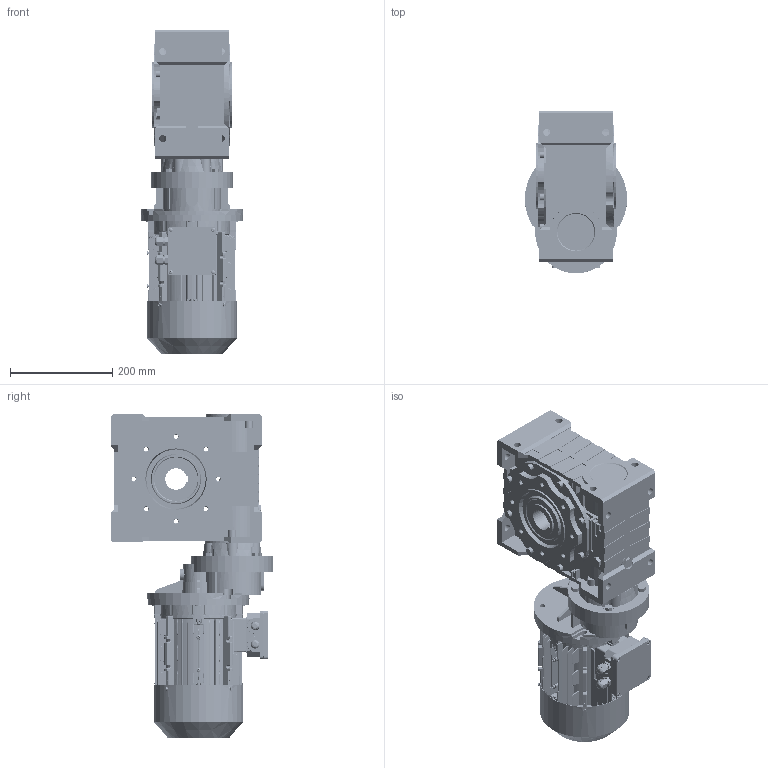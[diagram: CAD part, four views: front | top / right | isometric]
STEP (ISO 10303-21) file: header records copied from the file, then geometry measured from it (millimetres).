
FILE_DESCRIPTION (( 'STEP AP214' ), '1' );
FILE_NAME ('CMRV110_PC090_MX3-90S.STEP', '2018-07-04T13:26:49', ( '' ), ( '' ), 'SwSTEP 2.0', 'SolidWorks 2012', '' );
FILE_SCHEMA (( 'AUTOMOTIVE_DESIGN' ));
Length unit declared in the file: millimetre
Products named in the file (41): CMRV110_B10; PC090_MX3-90S; MX3-90S_B5; cross recessed pan head screws gb_GB_CROSS_SCREWS_TYPE1 M4X6-6  H type-N; hexagon socket head cap screws gb_GB_FASTENER_SCREWS_HSHCS M6X30-N_2; hexagon socket head cap screws gb_GB_FASTENER_SCREWS_HSHCS M6X25-N_1; hexagon socket head cap screws gb_GB_FASTENER_SCREWS_HSHCS M6X40-N; IE3 90S flange_2; IE3 90S  oil seal_2; circlips for shaft--type b gb_GB_CONNECTING_PIECE_RINGS_CSB 20_2; IE3 90L cable glandsM16_2; cross recessed pan head screws gb_GB_CROSS_SCREWS_TYPE1 M5X10-10  H type-N_2; cross recessed pan head screws gb_GB_CROSS_SCREWS_TYPE1 M5X20-20  H type-N_2; hexagon head bolts-full thread gb_GB_FASTENER_BOLT_STBAB A M4X16-N_2; IE3 90S connection board_2; hexagon flange head tapping screws gb_GB_SQUARE_AND_HEXAGON_TYPE137 ST3.5X9.5 F-N_2; cross recessed pan head tapping screws gb_GB_CROSS_SCREWS_TYPE128 ST4.2X9.5 H C-N_2; hex nuts, style 1-grades ab gb_GB_FASTENER_NUT_SNAB1 M6-N_2; spring lock washers--normal type gb_GB_FASTENER_WASHER_SW 6_2; IE3 90S terminal box cover_2; IE3 90S terminal box_2; plain parallel keys_GB_CONNECTING_PIECE_KEYS_CSK 8X40_2; IE3 90S fan cover_2; IE3 90S fan_2; deep groove ball bearings gb_Rolling bearings 6205 GB 276-94_2; IE3 90S rotor_2; IE3 90S flangeB5; IE3 90S casing_2; PC090-A09_Ø28.LK130; ãi-¿ã¢+³Að- 8í-7í-35; -+-¨¢ÃÈ¦Í¨-À-¦ÂñM8í-22; Ë-ÀÔ-35í-55í-10_B1; Ë-ÀÔ-30í-47í-7_B1; PC90ﾂ-ｩﾃ; -ﾟﾎﾚ+ｦ; -ﾟ; -õ+ÙÍßÎÚ+¦; +_ÀÔ©Ã-32í-7; 戌俓; PC90火耳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
Assembly tree (80 placements, depth 5):
  CMRV110_PC090_MX3-90S
    PC090_MX3-90S
      PC090-A09_Ø28.LK130
        PC90火耳
        -õ+ÙÍßÎÚ+¦
          戌俓
          +_ÀÔ©Ã-32í-7
        -ﾟﾎﾚ+ｦ
          -ﾟ
        PC90ﾂ-ｩﾃ
        Ë-ÀÔ-30í-47í-7_B1
        Ë-ÀÔ-35í-55í-10_B1
        -+-¨¢ÃÈ¦Í¨-À-¦ÂñM8í-22  x5
        ãi-¿ã¢+³Að- 8í-7í-35
      MX3-90S_B5
        IE3 90S casing_2
        IE3 90S flangeB5
        IE3 90S rotor_2
        deep groove ball bearings gb_Rolling bearings 6205 GB 276-94_2  x2
        IE3 90S fan_2
        IE3 90S fan cover_2
        plain parallel keys_GB_CONNECTING_PIECE_KEYS_CSK 8X40_2
        IE3 90S terminal box_2
        IE3 90S terminal box cover_2
        spring lock washers--normal type gb_GB_FASTENER_WASHER_SW 6_2  x8
        hex nuts, style 1-grades ab gb_GB_FASTENER_NUT_SNAB1 M6-N_2  x7
        cross recessed pan head tapping screws gb_GB_CROSS_SCREWS_TYPE128 ST4.2X9.5 H C-N_2  x4
        hexagon flange head tapping screws gb_GB_SQUARE_AND_HEXAGON_TYPE137 ST3.5X9.5 F-N_2  x4
        IE3 90S connection board_2
        hexagon head bolts-full thread gb_GB_FASTENER_BOLT_STBAB A M4X16-N_2  x6
        cross recessed pan head screws gb_GB_CROSS_SCREWS_TYPE1 M5X20-20  H type-N_2  x2
        cross recessed pan head screws gb_GB_CROSS_SCREWS_TYPE1 M5X10-10  H type-N_2  x4
        IE3 90L cable glandsM16_2  x2
        circlips for shaft--type b gb_GB_CONNECTING_PIECE_RINGS_CSB 20_2
        IE3 90S  oil seal_2
        IE3 90S flange_2
        hexagon socket head cap screws gb_GB_FASTENER_SCREWS_HSHCS M6X40-N  x3
        hexagon socket head cap screws gb_GB_FASTENER_SCREWS_HSHCS M6X25-N_1
        hexagon socket head cap screws gb_GB_FASTENER_SCREWS_HSHCS M6X30-N_2  x4
        cross recessed pan head screws gb_GB_CROSS_SCREWS_TYPE1 M4X6-6  H type-N  x2
    CMRV110_B10
Bounding box: 200 x 317.5 x 634 mm (x, y, z)
Volume: 2913537.4 mm3; surface area: 1631481.1 mm2
Topology: 74 solids, 94 shells, 7061 faces, 18254 edges, 11439 vertices
Faces by surface type: plane 2726, cylinder 2060, bspline 1351, cone 799, sphere 81, torus 44
Entity records: 236278 total; most frequent: CARTESIAN_POINT 92611, ORIENTED_EDGE 29796, DIRECTION 24695, EDGE_CURVE 14977, VERTEX_POINT 9508, AXIS2_PLACEMENT_3D 8700, LINE 7295, VECTOR 7295
